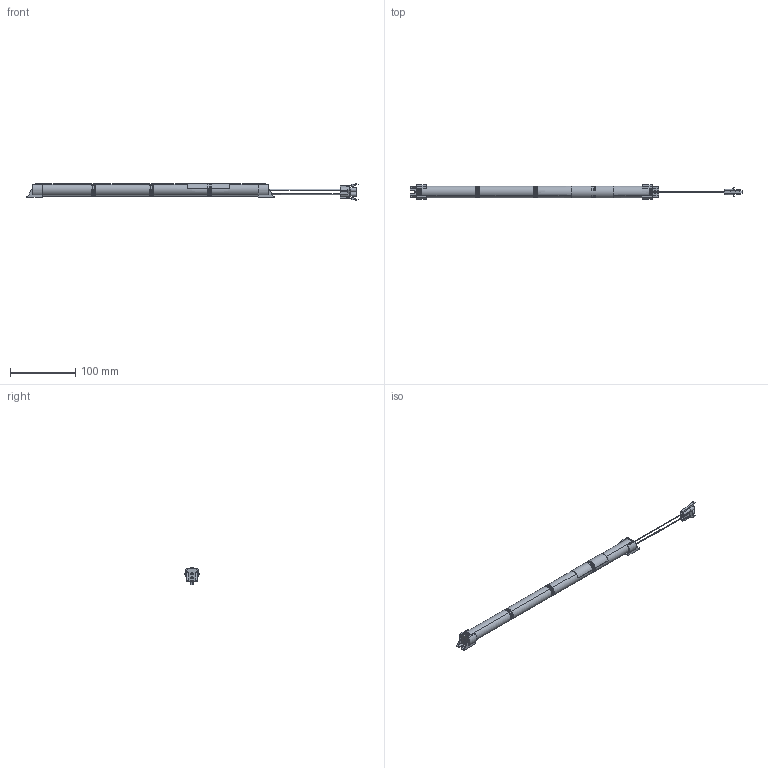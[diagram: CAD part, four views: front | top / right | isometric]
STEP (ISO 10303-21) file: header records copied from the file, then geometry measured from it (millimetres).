
FILE_DESCRIPTION((''),'2;1');
FILE_NAME('15013957Z_DMEC89800442_4XRND_D','2021-07-20T15:32:00',('Juergen.Hrach'),(''),'CREO PARAMETRIC BY PTC INC, 2019164','CREO PARAMETRIC BY PTC INC, 2019164','');
FILE_SCHEMA(('CONFIG_CONTROL_DESIGN'));
Length unit declared in the file: millimetre
Products named in the file (1): 15013957Z_DMEC89800442_4XRND_D
Bounding box: 507.9 x 21.93 x 27 mm (x, y, z)
Volume: 95991.4 mm3; surface area: 32980.8 mm2
Topology: 5 solids, 5 shells, 302 faces, 773 edges, 490 vertices
Faces by surface type: plane 143, cylinder 103, torus 56
Entity records: 9373 total; most frequent: CARTESIAN_POINT 1725, DIRECTION 1693, ORIENTED_EDGE 1546, EDGE_CURVE 773, AXIS2_PLACEMENT_3D 640, VERTEX_POINT 490, VECTOR 413, LINE 413
